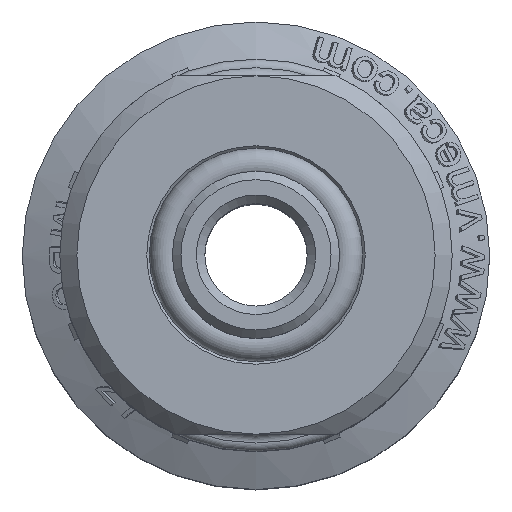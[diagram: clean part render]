
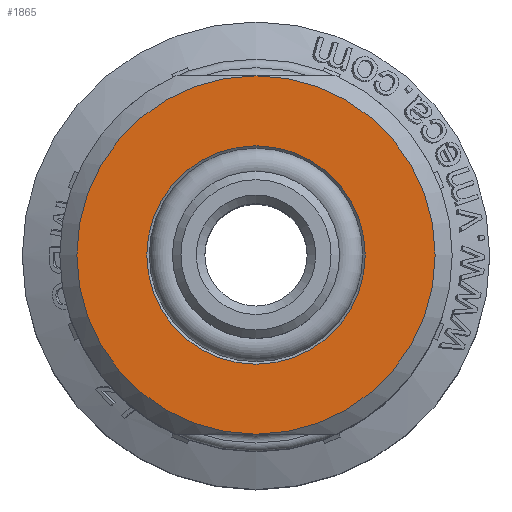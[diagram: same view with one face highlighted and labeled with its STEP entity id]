
A CAD part, top view. The second image highlights one B-rep face of the part: STEP entity #1865.
In plain terms, the highlighted planar face has unit normal (0, 0, 1).
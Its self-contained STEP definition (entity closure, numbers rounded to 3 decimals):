
#1865 = ADVANCED_FACE( '', ( #4109, #4110 ), #4111, .F. );
#4109 = FACE_OUTER_BOUND( '', #6283, .T. );
#4110 = FACE_BOUND( '', #6284, .T. );
#4111 = PLANE( '', #6285 );
#6283 = EDGE_LOOP( '', ( #11063, #11064 ) );
#6284 = EDGE_LOOP( '', ( #11065 ) );
#6285 = AXIS2_PLACEMENT_3D( '', #11066, #11067, #11068 );
#11063 = ORIENTED_EDGE( '', *, *, #13641, .F. );
#11064 = ORIENTED_EDGE( '', *, *, #13610, .F. );
#11065 = ORIENTED_EDGE( '', *, *, #13645, .T. );
#11066 = CARTESIAN_POINT( '', ( -6.4, 0., 3.683 ) );
#11067 = DIRECTION( '', ( 0., 0., -1. ) );
#11068 = DIRECTION( '', ( -1., 0., 0. ) );
#13610 = EDGE_CURVE( '', #15934, #15936, #15937, .T. );
#13641 = EDGE_CURVE( '', #15936, #15934, #15991, .T. );
#13645 = EDGE_CURVE( '', #15995, #15995, #15996, .T. );
#15934 = VERTEX_POINT( '', #21335 );
#15936 = VERTEX_POINT( '', #21344 );
#15937 = CIRCLE( '', #21345, 10.5 );
#15991 = CIRCLE( '', #21445, 10.5 );
#15995 = VERTEX_POINT( '', #21449 );
#15996 = CIRCLE( '', #21450, 6.4 );
#21335 = CARTESIAN_POINT( '', ( 0., -10.5, 3.683 ) );
#21344 = CARTESIAN_POINT( '', ( 0., 10.5, 3.683 ) );
#21345 = AXIS2_PLACEMENT_3D( '', #22490, #22491, #22492 );
#21445 = AXIS2_PLACEMENT_3D( '', #22528, #22529, #22530 );
#21449 = CARTESIAN_POINT( '', ( -6.4, 0., 3.683 ) );
#21450 = AXIS2_PLACEMENT_3D( '', #22540, #22541, #22542 );
#22490 = CARTESIAN_POINT( '', ( 0., 0., 3.683 ) );
#22491 = DIRECTION( '', ( 0., 0., -1. ) );
#22492 = DIRECTION( '', ( -1., 0., 0. ) );
#22528 = CARTESIAN_POINT( '', ( 0., 0., 3.683 ) );
#22529 = DIRECTION( '', ( 0., 0., -1. ) );
#22530 = DIRECTION( '', ( -1., 0., 0. ) );
#22540 = CARTESIAN_POINT( '', ( 0., 0., 3.683 ) );
#22541 = DIRECTION( '', ( 0., 0., -1. ) );
#22542 = DIRECTION( '', ( -1., 0., 0. ) );
